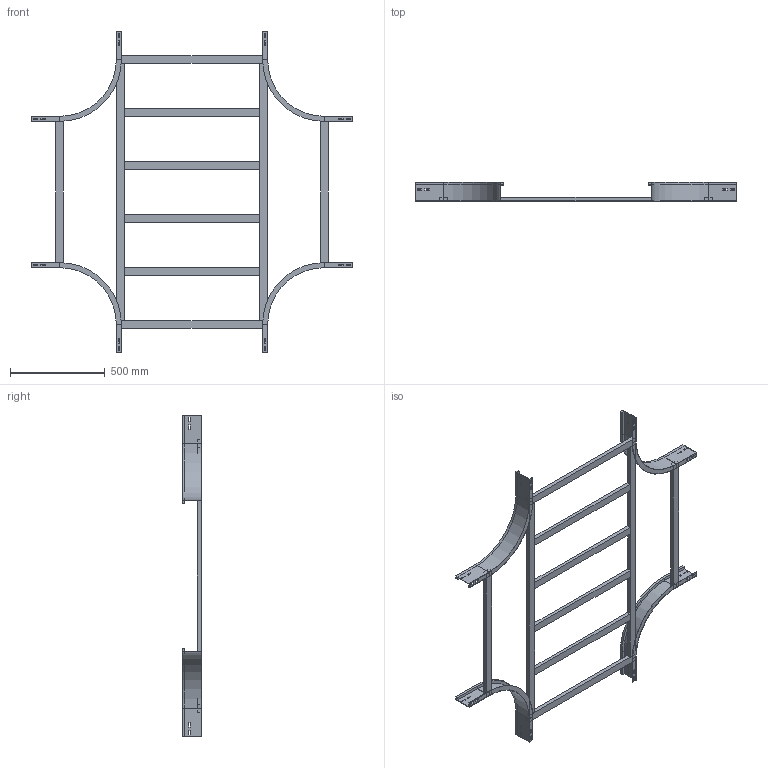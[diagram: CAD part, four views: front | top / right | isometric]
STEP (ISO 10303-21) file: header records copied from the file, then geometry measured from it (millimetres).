
FILE_DESCRIPTION (( 'STEP AP214' ), '1' );
FILE_NAME ('A2_17B3D800.step', '2025-02-21T15:55:18', ( '' ), ( '' ), 'SwSTEP 2.0', 'SolidWorks 2023', '' );
FILE_SCHEMA (( 'AUTOMOTIVE_DESIGN' ));
Length unit declared in the file: millimetre
Products named in the file (5): TRAVERSINO_INTERMEDIO_R300+800; TRAVERSINO_800; A2_LONGH.INTERNO 90°_H100_R300; A2_TRAVERSINO_LONG._R300+800; A2_17B3D800
Assembly tree (14 placements, depth 2):
  A2_17B3D800
    A2_LONGH.INTERNO 90°_H100_R300  x4
    TRAVERSINO_800  x4
    A2_TRAVERSINO_LONG._R300+800  x2
    TRAVERSINO_INTERMEDIO_R300+800  x4
Bounding box: 1700 x 100 x 1700 mm (x, y, z)
Volume: 8469600 mm3; surface area: 1965580.5 mm2
Topology: 14 solids, 14 shells, 292 faces, 728 edges, 464 vertices
Faces by surface type: plane 276, cylinder 16
Entity records: 2458 total; most frequent: CARTESIAN_POINT 401, DIRECTION 382, ORIENTED_EDGE 376, EDGE_CURVE 188, LINE 180, VECTOR 180, VERTEX_POINT 120, AXIS2_PLACEMENT_3D 101
